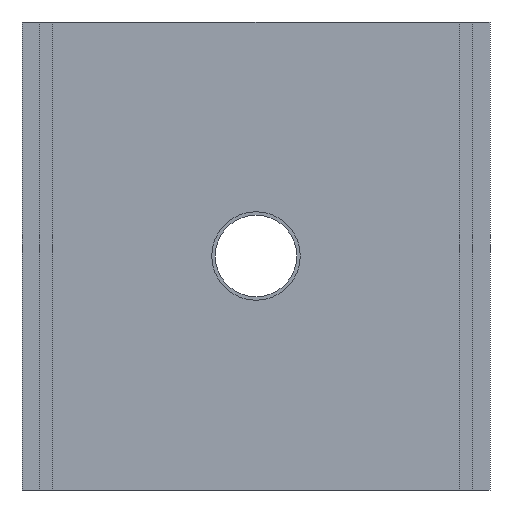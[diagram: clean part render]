
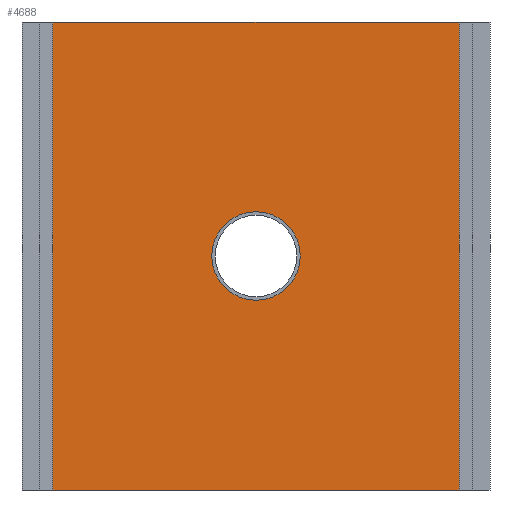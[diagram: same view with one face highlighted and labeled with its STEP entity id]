
A CAD part, front view. The second image highlights one B-rep face of the part: STEP entity #4688.
In plain terms, the highlighted planar face has unit normal (0, -1, 0).
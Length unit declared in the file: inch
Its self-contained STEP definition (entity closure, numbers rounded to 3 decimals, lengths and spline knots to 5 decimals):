
#4010=CARTESIAN_POINT('',(-9.19291,-5.43351,10.57087));
#4011=VERTEX_POINT('',#4010);
#4018=CARTESIAN_POINT('',(9.19291,-5.43351,10.57087));
#4019=VERTEX_POINT('',#4018);
#4020=CARTESIAN_POINT('',(9.19291,-5.43351,10.57087));
#4021=DIRECTION('',(-1.0,0.0,0.0));
#4022=VECTOR('',#4021,18.38583);
#4023=LINE('',#4020,#4022);
#4024=EDGE_CURVE('',#4019,#4011,#4023,.T.);
#4182=CARTESIAN_POINT('',(-2.0,-5.43351,0.));
#4183=VERTEX_POINT('',#4182);
#4184=CARTESIAN_POINT('',(0.0,-5.43351,0.0));
#4185=DIRECTION('',(0.0,1.0,0.0));
#4186=DIRECTION('',(1.0,0.0,0.0));
#4187=AXIS2_PLACEMENT_3D('',#4184,#4185,#4186);
#4188=CIRCLE('',#4187,2.0);
#4189=EDGE_CURVE('',#4183,#4183,#4188,.T.);
#4644=CARTESIAN_POINT('',(9.19291,-5.43351,-10.57087));
#4645=VERTEX_POINT('',#4644);
#4646=CARTESIAN_POINT('',(9.19291,-5.43351,-10.57087));
#4647=DIRECTION('',(0.0,0.0,1.0));
#4648=VECTOR('',#4647,21.14173);
#4649=LINE('',#4646,#4648);
#4650=EDGE_CURVE('',#4645,#4019,#4649,.T.);
#4662=CARTESIAN_POINT('',(9.19291,-5.43351,0.0));
#4663=DIRECTION('',(0.0,-1.0,0.0));
#4664=DIRECTION('',(0.0,0.0,-1.0));
#4665=AXIS2_PLACEMENT_3D('',#4662,#4663,#4664);
#4666=PLANE('',#4665);
#4667=ORIENTED_EDGE('',*,*,#4024,.T.);
#4668=CARTESIAN_POINT('',(-9.19291,-5.43351,-10.57087));
#4669=VERTEX_POINT('',#4668);
#4670=CARTESIAN_POINT('',(-9.19291,-5.43351,-10.57087));
#4671=DIRECTION('',(0.0,0.0,1.0));
#4672=VECTOR('',#4671,21.14173);
#4673=LINE('',#4670,#4672);
#4674=EDGE_CURVE('',#4669,#4011,#4673,.T.);
#4675=ORIENTED_EDGE('',*,*,#4674,.F.);
#4676=CARTESIAN_POINT('',(-9.19291,-5.43351,-10.57087));
#4677=DIRECTION('',(1.0,0.0,0.0));
#4678=VECTOR('',#4677,18.38583);
#4679=LINE('',#4676,#4678);
#4680=EDGE_CURVE('',#4669,#4645,#4679,.T.);
#4681=ORIENTED_EDGE('',*,*,#4680,.T.);
#4682=ORIENTED_EDGE('',*,*,#4650,.T.);
#4683=EDGE_LOOP('',(#4667,#4675,#4681,#4682));
#4684=FACE_OUTER_BOUND('',#4683,.T.);
#4685=ORIENTED_EDGE('',*,*,#4189,.T.);
#4686=EDGE_LOOP('',(#4685));
#4687=FACE_BOUND('',#4686,.T.);
#4688=ADVANCED_FACE('',(#4684,#4687),#4666,.T.);
